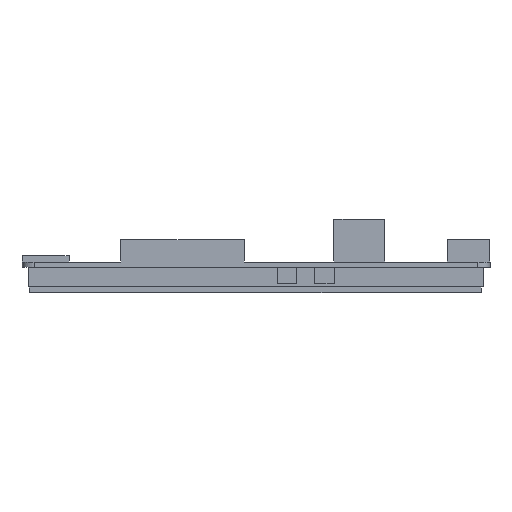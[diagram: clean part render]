
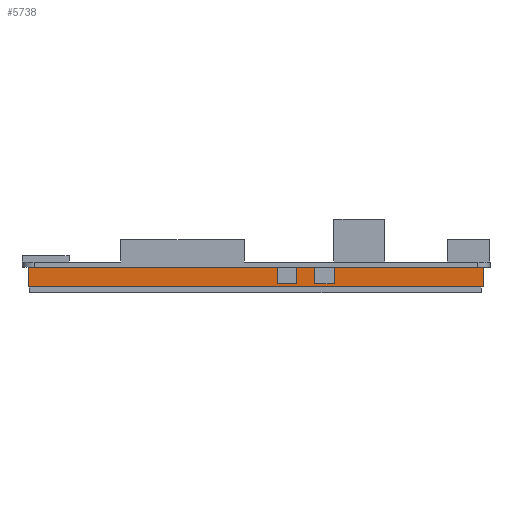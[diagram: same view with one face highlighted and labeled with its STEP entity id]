
A CAD part, left-side view. The second image highlights one B-rep face of the part: STEP entity #5738.
In plain terms, the highlighted planar face has unit normal (-1, 0, 0).
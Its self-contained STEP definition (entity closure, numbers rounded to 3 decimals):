
#342=DIRECTION('',(0.,1.,0.));
#343=VECTOR('',#342,144.02);
#344=CARTESIAN_POINT('',(571.044,765.976,-1.6));
#345=LINE('',#344,#343);
#2761=DIRECTION('',(0.,0.,-1.));
#2762=VECTOR('',#2761,6.3);
#2763=CARTESIAN_POINT('',(571.044,765.976,-1.6));
#2764=LINE('',#2763,#2762);
#2782=DIRECTION('',(0.,0.,-1.));
#2783=VECTOR('',#2782,6.3);
#2784=CARTESIAN_POINT('',(571.044,909.996,-1.6));
#2785=LINE('',#2784,#2783);
#2789=DIRECTION('',(0.,1.,0.));
#2790=VECTOR('',#2789,144.02);
#2791=CARTESIAN_POINT('',(571.044,765.976,-7.9));
#2792=LINE('',#2791,#2790);
#3285=CARTESIAN_POINT('',(571.044,765.976,-7.9));
#3286=CARTESIAN_POINT('',(571.044,909.996,-7.9));
#3287=VERTEX_POINT('',#3285);
#3288=VERTEX_POINT('',#3286);
#3293=CARTESIAN_POINT('',(571.044,765.976,-1.6));
#3294=CARTESIAN_POINT('',(571.044,909.996,-1.6));
#3295=VERTEX_POINT('',#3293);
#3296=VERTEX_POINT('',#3294);
#5724=CARTESIAN_POINT('',(571.044,765.976,-1.6));
#5725=DIRECTION('',(-1.,0.,0.));
#5726=DIRECTION('',(0.,1.,0.));
#5727=AXIS2_PLACEMENT_3D('',#5724,#5725,#5726);
#5728=PLANE('',#5727);
#5729=ORIENTED_EDGE('',*,*,#3690,.F.);
#5731=ORIENTED_EDGE('',*,*,#5730,.T.);
#5733=ORIENTED_EDGE('',*,*,#5732,.T.);
#5735=ORIENTED_EDGE('',*,*,#5734,.F.);
#5736=EDGE_LOOP('',(#5729,#5731,#5733,#5735));
#5737=FACE_OUTER_BOUND('',#5736,.F.);
#3690=EDGE_CURVE('',#3295,#3296,#345,.T.);
#5730=EDGE_CURVE('',#3295,#3287,#2764,.T.);
#5732=EDGE_CURVE('',#3287,#3288,#2792,.T.);
#5734=EDGE_CURVE('',#3296,#3288,#2785,.T.);
#5738=ADVANCED_FACE('',(#5737),#5728,.T.);
